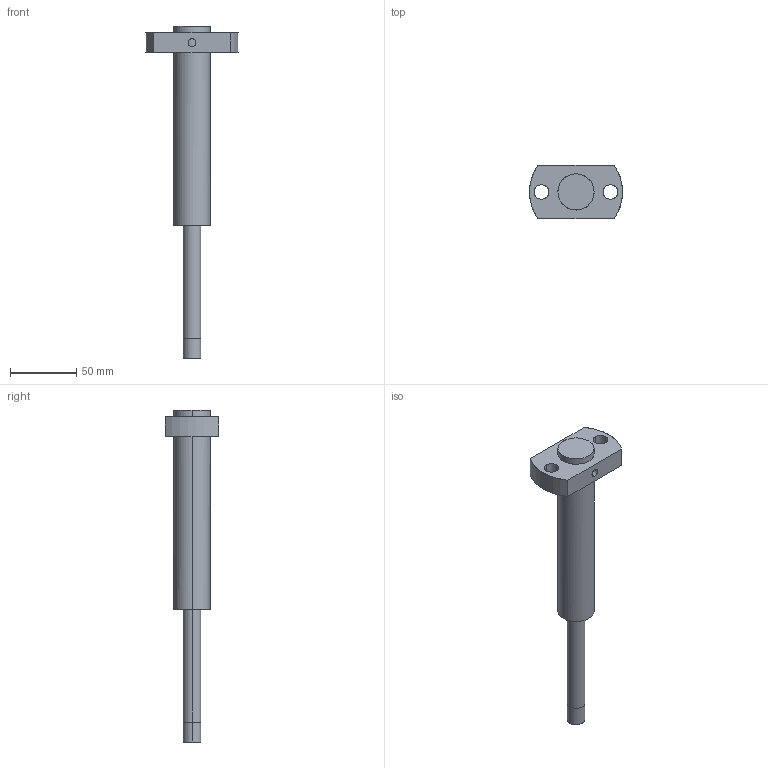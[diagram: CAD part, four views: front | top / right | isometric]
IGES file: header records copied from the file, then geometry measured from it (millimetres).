
Global section: file name: E:\UnigraphicsGraphicData\MISUMI_PRESS-PARTS\IGES\3d_papzu13-100-150-130-90_01711_r00.igs; native system: NX V5.0; preprocessor: UGS NX IGES V5.0; author: MISUMI; date: 20110105.162228; units: millimetre
Bounding box: 70 x 40 x 250 mm (x, y, z)
Surface area: 28258.9 mm2 (no closed solid volume)
Topology: 0 solids, 0 shells, 32 faces, 284 edges, 284 vertices
Faces by surface type: bspline 32
